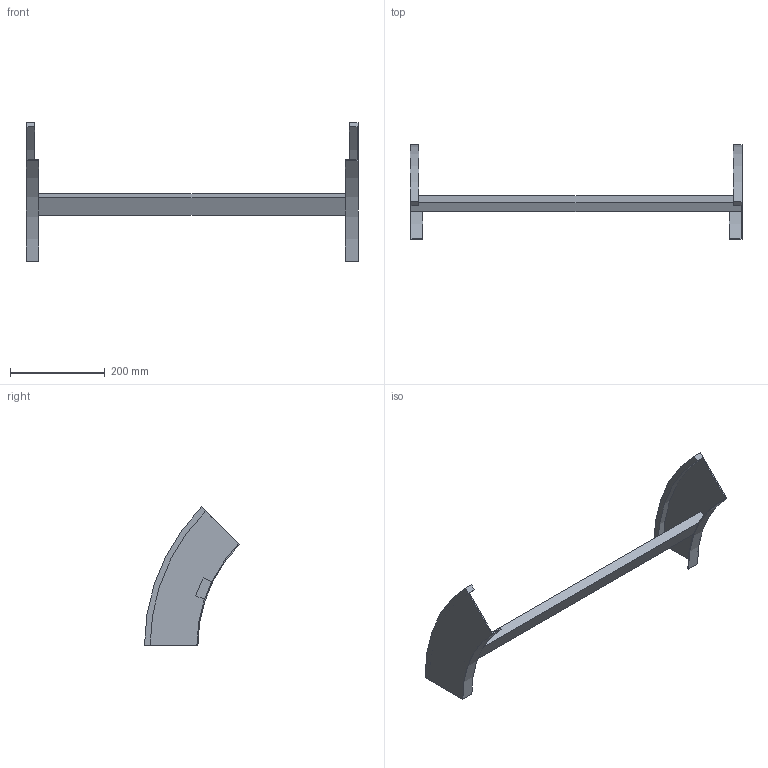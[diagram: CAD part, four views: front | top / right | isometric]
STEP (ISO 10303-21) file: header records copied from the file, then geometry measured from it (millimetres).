
FILE_DESCRIPTION (( 'STEP AP214' ), '1' );
FILE_NAME ('B2_34B3J700.step', '2025-02-21T14:54:01', ( '' ), ( '' ), 'SwSTEP 2.0', 'SolidWorks 2023', '' );
FILE_SCHEMA (( 'AUTOMOTIVE_DESIGN' ));
Length unit declared in the file: millimetre
Products named in the file (3): TRAVERSINO_700; B2_LONGH.DISCESA_45°_H112.5_R300; B2_34B3J700
Assembly tree (3 placements, depth 2):
  B2_34B3J700
    B2_LONGH.DISCESA_45°_H112.5_R300  x2
    TRAVERSINO_700
Bounding box: 700 x 200.37 x 291.68 mm (x, y, z)
Volume: 835907.1 mm3; surface area: 259924.9 mm2
Topology: 3 solids, 3 shells, 26 faces, 60 edges, 40 vertices
Faces by surface type: plane 18, cylinder 8
Entity records: 544 total; most frequent: DIRECTION 88, CARTESIAN_POINT 82, ORIENTED_EDGE 72, EDGE_CURVE 36, AXIS2_PLACEMENT_3D 30, VECTOR 28, LINE 28, VERTEX_POINT 24
